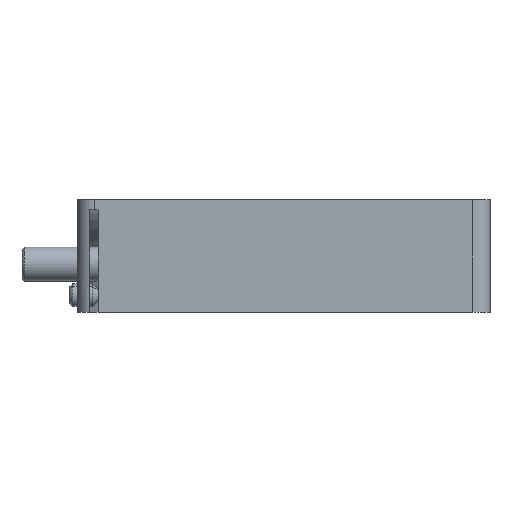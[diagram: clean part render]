
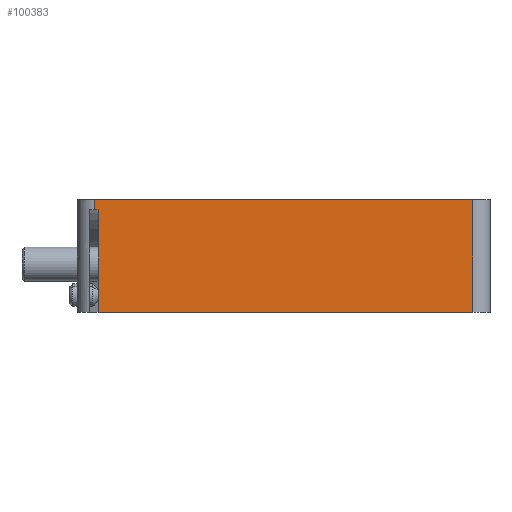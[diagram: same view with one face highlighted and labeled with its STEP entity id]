
A CAD part, left-side view. The second image highlights one B-rep face of the part: STEP entity #100383.
In plain terms, the highlighted planar face has unit normal (-1, 0, 0).
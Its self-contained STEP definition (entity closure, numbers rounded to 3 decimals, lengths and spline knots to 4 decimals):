
#86561=DIRECTION('',(0.,0.,-1.));
#86562=VECTOR('',#86561,0.82);
#86563=CARTESIAN_POINT('',(-1.39,-1.375,0.));
#86564=LINE('',#86563,#86562);
#86575=DIRECTION('',(0.,-1.,0.));
#86576=VECTOR('',#86575,2.725);
#86577=CARTESIAN_POINT('',(-1.39,1.35,-0.82));
#86578=LINE('',#86577,#86576);
#86582=DIRECTION('',(0.,0.,-1.));
#86583=VECTOR('',#86582,0.7469);
#86584=CARTESIAN_POINT('',(-1.39,1.35,-0.0731));
#86585=LINE('',#86584,#86583);
#86589=DIRECTION('',(0.,1.,0.));
#86590=VECTOR('',#86589,0.025);
#86591=CARTESIAN_POINT('',(-1.39,1.35,-0.0731));
#86592=LINE('',#86591,#86590);
#86610=DIRECTION('',(0.,0.,1.));
#86611=VECTOR('',#86610,0.0731);
#86612=CARTESIAN_POINT('',(-1.39,1.375,-0.0731));
#86613=LINE('',#86612,#86611);
#88839=DIRECTION('',(0.,-1.,0.));
#88840=VECTOR('',#88839,2.75);
#88841=CARTESIAN_POINT('',(-1.39,1.375,0.));
#88842=LINE('',#88841,#88840);
#98458=CARTESIAN_POINT('',(-1.39,-1.375,0.));
#98459=VERTEX_POINT('',#98458);
#98476=CARTESIAN_POINT('',(-1.39,-1.375,-0.82));
#98477=VERTEX_POINT('',#98476);
#98478=CARTESIAN_POINT('',(-1.39,1.375,0.));
#98479=VERTEX_POINT('',#98478);
#98490=CARTESIAN_POINT('',(-1.39,1.35,-0.82));
#98491=VERTEX_POINT('',#98490);
#98515=CARTESIAN_POINT('',(-1.39,1.375,-0.0731));
#98516=VERTEX_POINT('',#98515);
#98517=CARTESIAN_POINT('',(-1.39,1.35,-0.0731));
#98518=VERTEX_POINT('',#98517);
#100367=CARTESIAN_POINT('',(-1.39,-1.5,0.));
#100368=DIRECTION('',(-1.,0.,0.));
#100369=DIRECTION('',(0.,0.,1.));
#100370=AXIS2_PLACEMENT_3D('',#100367,#100368,#100369);
#100371=PLANE('',#100370);
#100372=ORIENTED_EDGE('',*,*,#100357,.T.);
#100373=ORIENTED_EDGE('',*,*,#100235,.F.);
#100374=ORIENTED_EDGE('',*,*,#100189,.F.);
#100376=ORIENTED_EDGE('',*,*,#100375,.T.);
#100378=ORIENTED_EDGE('',*,*,#100377,.T.);
#100380=ORIENTED_EDGE('',*,*,#100379,.T.);
#100381=EDGE_LOOP('',(#100372,#100373,#100374,#100376,#100378,#100380));
#100382=FACE_OUTER_BOUND('',#100381,.F.);
#100189=EDGE_CURVE('',#98518,#98491,#86585,.T.);
#100235=EDGE_CURVE('',#98491,#98477,#86578,.T.);
#100357=EDGE_CURVE('',#98459,#98477,#86564,.T.);
#100375=EDGE_CURVE('',#98518,#98516,#86592,.T.);
#100377=EDGE_CURVE('',#98516,#98479,#86613,.T.);
#100379=EDGE_CURVE('',#98479,#98459,#88842,.T.);
#100383=ADVANCED_FACE('',(#100382),#100371,.T.);
